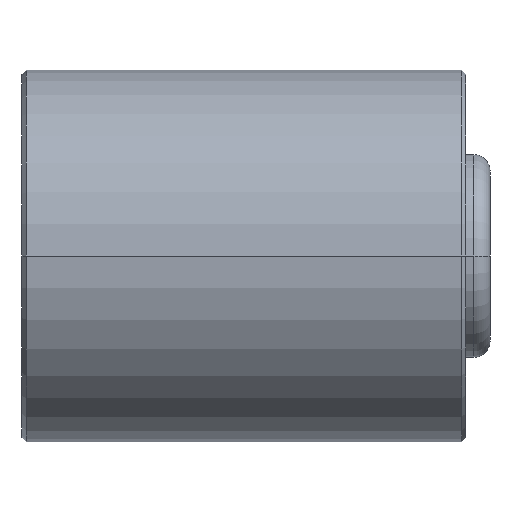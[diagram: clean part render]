
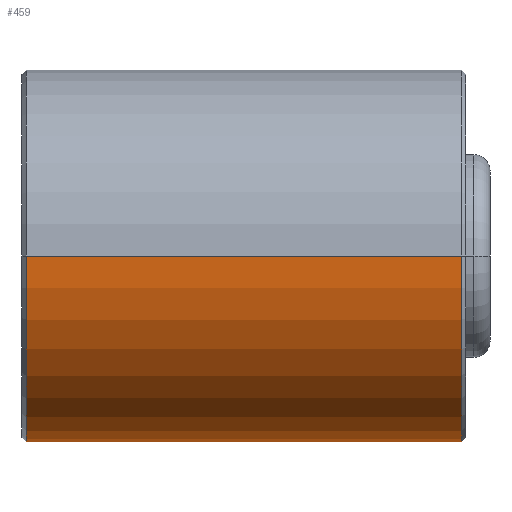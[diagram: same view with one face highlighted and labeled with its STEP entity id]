
A CAD part, front view. The second image highlights one B-rep face of the part: STEP entity #459.
In plain terms, the highlighted cylindrical face has radius 34.925 mm (diameter 69.85 mm), a partial arc.
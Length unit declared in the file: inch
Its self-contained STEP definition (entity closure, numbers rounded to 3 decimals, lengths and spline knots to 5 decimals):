
#43=CARTESIAN_POINT('',(-1.61,0.,0.));
#44=DIRECTION('',(-1.,0.,0.));
#45=DIRECTION('',(0.,1.,0.));
#46=AXIS2_PLACEMENT_3D('',#43,#44,#45);
#48=DIRECTION('',(-1.,0.,0.));
#49=VECTOR('',#48,3.22);
#50=CARTESIAN_POINT('',(1.61,-1.375,0.));
#51=LINE('',#50,#49);
#52=CARTESIAN_POINT('',(1.61,0.,0.));
#53=DIRECTION('',(-1.,0.,0.));
#54=DIRECTION('',(0.,1.,0.));
#55=AXIS2_PLACEMENT_3D('',#52,#53,#54);
#57=DIRECTION('',(-1.,0.,0.));
#58=VECTOR('',#57,2.21357);
#59=CARTESIAN_POINT('',(1.61,1.375,0.));
#60=LINE('',#59,#58);
#61=CARTESIAN_POINT('',(-0.81609,1.33336,
-0.3358));
#62=CARTESIAN_POINT('',(-0.80388,1.33487,
-0.32982));
#63=CARTESIAN_POINT('',(-0.78026,1.3381,
-0.31667));
#64=CARTESIAN_POINT('',(-0.74699,1.34345,
-0.29325));
#65=CARTESIAN_POINT('',(-0.71655,1.34901,
-0.2666));
#66=CARTESIAN_POINT('',(-0.68925,1.35452,
-0.23713));
#67=CARTESIAN_POINT('',(-0.66429,1.35999,
-0.20369));
#68=CARTESIAN_POINT('',(-0.64177,1.36527,
-0.16501));
#69=CARTESIAN_POINT('',(-0.62251,1.37005,
-0.11996));
#70=CARTESIAN_POINT('',(-0.60785,1.37386,
-0.06561));
#71=CARTESIAN_POINT('',(-0.60357,1.375,-0.02292));
#72=CARTESIAN_POINT('',(-0.60357,1.375,0.));
#74=CARTESIAN_POINT('',(-0.81609,1.33336,
-0.3358));
#75=CARTESIAN_POINT('',(-0.83145,1.33471,
-0.33047));
#76=CARTESIAN_POINT('',(-0.84677,1.33605,
-0.32501));
#77=CARTESIAN_POINT('',(-0.86203,1.33738,
-0.31942));
#79=CARTESIAN_POINT('',(-1.3228,1.375,0.));
#80=CARTESIAN_POINT('',(-1.3228,1.375,-0.02061));
#81=CARTESIAN_POINT('',(-1.31922,1.37409,-0.06119));
#82=CARTESIAN_POINT('',(-1.30292,1.37006,-0.12124));
#83=CARTESIAN_POINT('',(-1.27644,1.36394,-0.17678));
#84=CARTESIAN_POINT('',(-1.2404,1.35644,-0.22677));
#85=CARTESIAN_POINT('',(-1.19664,1.34865,-0.26882));
#86=CARTESIAN_POINT('',(-1.147,1.34159,-0.30167));
#87=CARTESIAN_POINT('',(-1.09745,1.33646,-0.32342));
#88=CARTESIAN_POINT('',(-1.04903,1.33322,-0.3364));
#89=CARTESIAN_POINT('',(-1.00182,1.33176,-0.3421));
#90=CARTESIAN_POINT('',(-0.95453,1.33196,
-0.34135));
#91=CARTESIAN_POINT('',(-0.90728,1.33382,
-0.33404));
#92=CARTESIAN_POINT('',(-0.87698,1.33605,
-0.32501));
#93=CARTESIAN_POINT('',(-0.86203,1.33738,
-0.31942));
#95=DIRECTION('',(-1.,0.,0.));
#96=VECTOR('',#95,0.2872);
#97=CARTESIAN_POINT('',(-1.3228,1.375,0.));
#98=LINE('',#97,#96);
#174=CARTESIAN_POINT('',(-1.3228,1.375,0.));
#181=CARTESIAN_POINT('',(-0.60357,1.375,0.));
#338=VERTEX_POINT('',#174);
#339=VERTEX_POINT('',#181);
#340=VERTEX_POINT('',#93);
#341=VERTEX_POINT('',#74);
#356=CARTESIAN_POINT('',(-1.61,1.375,0.));
#357=CARTESIAN_POINT('',(-1.61,-1.375,0.));
#358=VERTEX_POINT('',#356);
#359=VERTEX_POINT('',#357);
#360=CARTESIAN_POINT('',(1.61,1.375,0.));
#361=CARTESIAN_POINT('',(1.61,-1.375,0.));
#362=VERTEX_POINT('',#360);
#363=VERTEX_POINT('',#361);
#437=CARTESIAN_POINT('',(-1.804,0.,0.));
#438=DIRECTION('',(1.,0.,0.));
#439=DIRECTION('',(0.,-1.,0.));
#440=AXIS2_PLACEMENT_3D('',#437,#438,#439);
#441=CYLINDRICAL_SURFACE('',#440,1.375);
#443=ORIENTED_EDGE('',*,*,#442,.T.);
#445=ORIENTED_EDGE('',*,*,#444,.F.);
#446=ORIENTED_EDGE('',*,*,#427,.F.);
#448=ORIENTED_EDGE('',*,*,#447,.T.);
#450=ORIENTED_EDGE('',*,*,#449,.F.);
#452=ORIENTED_EDGE('',*,*,#451,.T.);
#454=ORIENTED_EDGE('',*,*,#453,.F.);
#456=ORIENTED_EDGE('',*,*,#455,.T.);
#457=EDGE_LOOP('',(#443,#445,#446,#448,#450,#452,#454,#456));
#458=FACE_OUTER_BOUND('',#457,.F.);
#459=ADVANCED_FACE('',(#458),#441,.T.);
#47=CIRCLE('',#46,1.375);
#56=CIRCLE('',#55,1.375);
#73=B_SPLINE_CURVE_WITH_KNOTS('',3,(#61,#62,#63,#64,#65,#66,#67,#68,#69,#70,#71,
#72),.UNSPECIFIED.,.F.,.F.,(4,1,1,1,1,1,1,1,1,4),(0.,0.11111,
0.22222,0.33333,0.44444,0.55556,
0.66667,0.77778,0.88889,1.),.UNSPECIFIED.);
#78=B_SPLINE_CURVE_WITH_KNOTS('',3,(#74,#75,#76,#77),.UNSPECIFIED.,.F.,.F.,(4,
4),(0.,1.),.UNSPECIFIED.);
#94=B_SPLINE_CURVE_WITH_KNOTS('',3,(#79,#80,#81,#82,#83,#84,#85,#86,#87,#88,#89,
#90,#91,#92,#93),.UNSPECIFIED.,.F.,.F.,(4,1,1,1,1,1,1,1,1,1,1,1,4),(0.,
0.08333,0.16667,0.25,0.33333,0.41667,
0.5,0.58333,0.66667,0.75,0.83333,
0.91667,1.),.UNSPECIFIED.);
#427=EDGE_CURVE('',#362,#363,#56,.T.);
#442=EDGE_CURVE('',#358,#359,#47,.T.);
#444=EDGE_CURVE('',#363,#359,#51,.T.);
#447=EDGE_CURVE('',#362,#339,#60,.T.);
#449=EDGE_CURVE('',#341,#339,#73,.T.);
#451=EDGE_CURVE('',#341,#340,#78,.T.);
#453=EDGE_CURVE('',#338,#340,#94,.T.);
#455=EDGE_CURVE('',#338,#358,#98,.T.);
